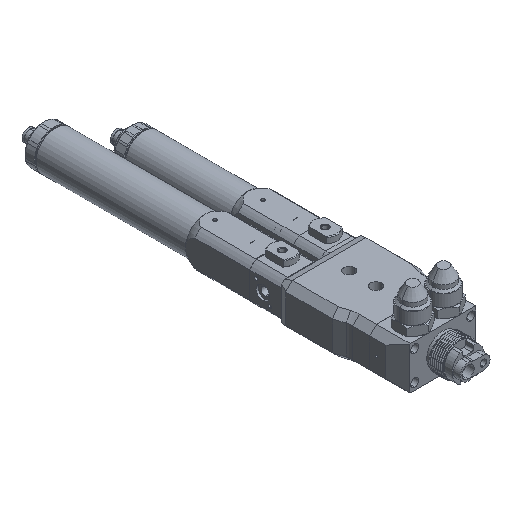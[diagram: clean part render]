
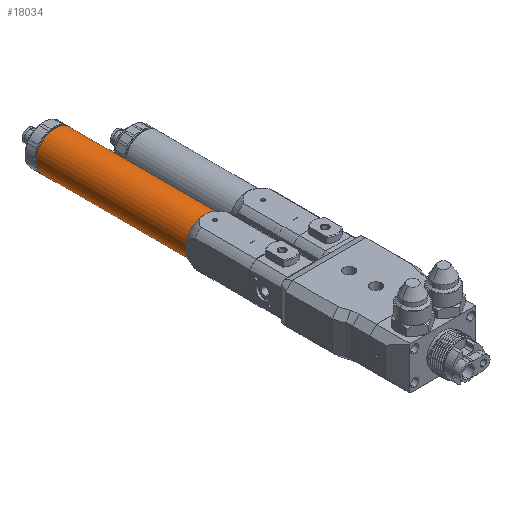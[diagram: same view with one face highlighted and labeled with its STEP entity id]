
A CAD part, isometric view. The second image highlights one B-rep face of the part: STEP entity #18034.
In plain terms, the highlighted cylindrical face has radius 14.5 mm (diameter 29 mm), a full revolution.
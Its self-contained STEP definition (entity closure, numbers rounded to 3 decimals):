
#740 = AXIS2_PLACEMENT_3D ( 'NONE', #40211, #16224, #9226 ) ;
#1071 = CIRCLE ( 'NONE', #4673, 14.5 ) ;
#1756 = DIRECTION ( 'NONE',  ( 0., -1., 0. ) ) ;
#1878 = VERTEX_POINT ( 'NONE', #7536 ) ;
#2480 = AXIS2_PLACEMENT_3D ( 'NONE', #23203, #1756, #19599 ) ;
#2771 = VERTEX_POINT ( 'NONE', #28433 ) ;
#3278 = DIRECTION ( 'NONE',  ( 0., -1., 0. ) ) ;
#4673 = AXIS2_PLACEMENT_3D ( 'NONE', #20986, #24815, #21207 ) ;
#4698 = DIRECTION ( 'NONE',  ( 0., 0., -1. ) ) ;
#4822 = VERTEX_POINT ( 'NONE', #41613 ) ;
#4906 = CARTESIAN_POINT ( 'NONE',  ( -108.037, 36.796, 998.603 ) ) ;
#6168 = DIRECTION ( 'NONE',  ( 0., 0., -1. ) ) ;
#6564 = ORIENTED_EDGE ( 'NONE', *, *, #31529, .T. ) ;
#6650 = DIRECTION ( 'NONE',  ( 0., 0., -1. ) ) ;
#7536 = CARTESIAN_POINT ( 'NONE',  ( -122.537, 36.796, 998.603 ) ) ;
#8030 = VERTEX_POINT ( 'NONE', #16642 ) ;
#8984 = CIRCLE ( 'NONE', #2480, 14.5 ) ;
#9101 = CARTESIAN_POINT ( 'NONE',  ( -108.037, 36.796, 998.603 ) ) ;
#9226 = DIRECTION ( 'NONE',  ( 0., 0., -1. ) ) ;
#10249 = AXIS2_PLACEMENT_3D ( 'NONE', #40161, #33373, #30187 ) ;
#10697 = EDGE_CURVE ( 'NONE', #8030, #1878, #1071, .T. ) ;
#11258 = CARTESIAN_POINT ( 'NONE',  ( -108.037, 148.596, 1013.103 ) ) ;
#11323 = ORIENTED_EDGE ( 'NONE', *, *, #33101, .T. ) ;
#14350 = AXIS2_PLACEMENT_3D ( 'NONE', #9101, #32849, #6168 ) ;
#14452 = CIRCLE ( 'NONE', #740, 14.5 ) ;
#15566 = CIRCLE ( 'NONE', #38700, 14.5 ) ;
#15687 = FACE_OUTER_BOUND ( 'NONE', #32601, .T. ) ;
#16224 = DIRECTION ( 'NONE',  ( 0., 1., 0. ) ) ;
#16642 = CARTESIAN_POINT ( 'NONE',  ( -108.037, 36.796, 984.103 ) ) ;
#16952 = ORIENTED_EDGE ( 'NONE', *, *, #27540, .T. ) ;
#17221 = CIRCLE ( 'NONE', #14350, 14.5 ) ;
#18034 = ADVANCED_FACE ( 'NONE', ( #15687, #37635 ), #38307, .T. ) ;
#18259 = DIRECTION ( 'NONE',  ( 0., 1., 0. ) ) ;
#19274 = VERTEX_POINT ( 'NONE', #11258 ) ;
#19599 = DIRECTION ( 'NONE',  ( 0., 0., -1. ) ) ;
#20086 = EDGE_LOOP ( 'NONE', ( #28276, #16952 ) ) ;
#20742 = VERTEX_POINT ( 'NONE', #41913 ) ;
#20986 = CARTESIAN_POINT ( 'NONE',  ( -108.037, 36.796, 998.603 ) ) ;
#21207 = DIRECTION ( 'NONE',  ( 0., 0., -1. ) ) ;
#21617 = EDGE_CURVE ( 'NONE', #20742, #8030, #15566, .T. ) ;
#23203 = CARTESIAN_POINT ( 'NONE',  ( -108.037, 148.596, 998.603 ) ) ;
#23248 = EDGE_CURVE ( 'NONE', #19274, #4822, #42023, .T. ) ;
#24815 = DIRECTION ( 'NONE',  ( 0., 1., 0. ) ) ;
#24958 = ORIENTED_EDGE ( 'NONE', *, *, #21617, .T. ) ;
#27235 = CARTESIAN_POINT ( 'NONE',  ( -108.037, 32.859, 998.603 ) ) ;
#27540 = EDGE_CURVE ( 'NONE', #4822, #19274, #8984, .T. ) ;
#28276 = ORIENTED_EDGE ( 'NONE', *, *, #23248, .T. ) ;
#28433 = CARTESIAN_POINT ( 'NONE',  ( -108.037, 36.796, 1013.103 ) ) ;
#30187 = DIRECTION ( 'NONE',  ( 0., 0., -1. ) ) ;
#31529 = EDGE_CURVE ( 'NONE', #2771, #20742, #17221, .T. ) ;
#32244 = ORIENTED_EDGE ( 'NONE', *, *, #10697, .T. ) ;
#32601 = EDGE_LOOP ( 'NONE', ( #24958, #32244, #11323, #6564 ) ) ;
#32849 = DIRECTION ( 'NONE',  ( 0., 1., 0. ) ) ;
#33101 = EDGE_CURVE ( 'NONE', #1878, #2771, #14452, .T. ) ;
#33373 = DIRECTION ( 'NONE',  ( 0., -1., 0. ) ) ;
#36085 = AXIS2_PLACEMENT_3D ( 'NONE', #27235, #3278, #6650 ) ;
#37635 = FACE_OUTER_BOUND ( 'NONE', #20086, .T. ) ;
#38307 = CYLINDRICAL_SURFACE ( 'NONE', #36085, 14.5 ) ;
#38700 = AXIS2_PLACEMENT_3D ( 'NONE', #4906, #18259, #4698 ) ;
#40161 = CARTESIAN_POINT ( 'NONE',  ( -108.037, 148.596, 998.603 ) ) ;
#40211 = CARTESIAN_POINT ( 'NONE',  ( -108.037, 36.796, 998.603 ) ) ;
#41613 = CARTESIAN_POINT ( 'NONE',  ( -108.037, 148.596, 984.103 ) ) ;
#41913 = CARTESIAN_POINT ( 'NONE',  ( -93.537, 36.796, 998.603 ) ) ;
#42023 = CIRCLE ( 'NONE', #10249, 14.5 ) ;
